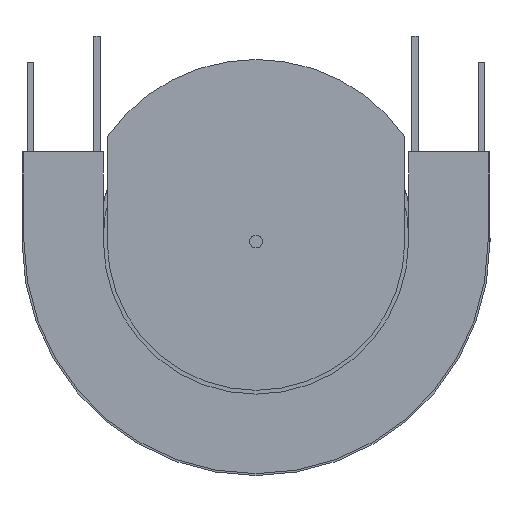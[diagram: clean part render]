
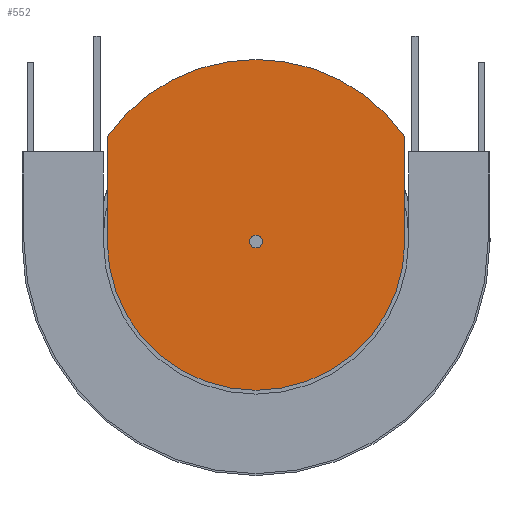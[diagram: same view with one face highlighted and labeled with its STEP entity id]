
A CAD part, front view. The second image highlights one B-rep face of the part: STEP entity #552.
In plain terms, the highlighted planar face has unit normal (0, -1, 0).
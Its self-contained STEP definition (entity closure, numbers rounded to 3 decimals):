
#114 = ORIENTED_EDGE ( 'NONE', *, *, #3408, .F. ) ;
#153 = VECTOR ( 'NONE', #3609, 1000. ) ;
#315 = EDGE_CURVE ( 'NONE', #862, #2097, #5756, .T. ) ;
#331 = VERTEX_POINT ( 'NONE', #2602 ) ;
#431 = CARTESIAN_POINT ( 'NONE',  ( 150., -38.75, -70. ) ) ;
#552 = ADVANCED_FACE ( 'NONE', ( #2470, #2300 ), #3314, .F. ) ;
#553 = CIRCLE ( 'NONE', #6273, 142. ) ;
#788 = CARTESIAN_POINT ( 'NONE',  ( 34., -38.75, 11.902 ) ) ;
#862 = VERTEX_POINT ( 'NONE', #1509 ) ;
#1160 = CIRCLE ( 'NONE', #5190, 5. ) ;
#1215 = AXIS2_PLACEMENT_3D ( 'NONE', #431, #5542, #6569 ) ;
#1228 = AXIS2_PLACEMENT_3D ( 'NONE', #3426, #2314, #4422 ) ;
#1303 = CIRCLE ( 'NONE', #1215, 116. ) ;
#1391 = ORIENTED_EDGE ( 'NONE', *, *, #1703, .F. ) ;
#1509 = CARTESIAN_POINT ( 'NONE',  ( 34., -38.75, -70. ) ) ;
#1649 = ORIENTED_EDGE ( 'NONE', *, *, #4972, .T. ) ;
#1703 = EDGE_CURVE ( 'NONE', #2324, #4594, #5188, .T. ) ;
#1872 = DIRECTION ( 'NONE',  ( 0., 0., 1. ) ) ;
#1953 = VERTEX_POINT ( 'NONE', #3514 ) ;
#2097 = VERTEX_POINT ( 'NONE', #788 ) ;
#2125 = DIRECTION ( 'NONE',  ( 0., 0., 1. ) ) ;
#2247 = CARTESIAN_POINT ( 'NONE',  ( 34., -38.75, -70. ) ) ;
#2276 = EDGE_LOOP ( 'NONE', ( #6496, #114 ) ) ;
#2300 = FACE_OUTER_BOUND ( 'NONE', #3236, .T. ) ;
#2314 = DIRECTION ( 'NONE',  ( 0., 1., 0. ) ) ;
#2324 = VERTEX_POINT ( 'NONE', #2326 ) ;
#2326 = CARTESIAN_POINT ( 'NONE',  ( 266., -38.75, 11.902 ) ) ;
#2359 = CARTESIAN_POINT ( 'NONE',  ( 150., -38.75, -70. ) ) ;
#2470 = FACE_BOUND ( 'NONE', #2276, .T. ) ;
#2537 = CIRCLE ( 'NONE', #1228, 142. ) ;
#2602 = CARTESIAN_POINT ( 'NONE',  ( 150., -38.75, -75. ) ) ;
#2609 = DIRECTION ( 'NONE',  ( 0., 1., 0. ) ) ;
#2747 = ORIENTED_EDGE ( 'NONE', *, *, #6604, .F. ) ;
#2770 = DIRECTION ( 'NONE',  ( 0., 0., -1. ) ) ;
#2913 = DIRECTION ( 'NONE',  ( 0., -1., 0. ) ) ;
#2914 = EDGE_CURVE ( 'NONE', #6344, #4594, #4574, .T. ) ;
#3012 = CARTESIAN_POINT ( 'NONE',  ( 150., -38.75, -70. ) ) ;
#3131 = CARTESIAN_POINT ( 'NONE',  ( 266., -38.75, -70. ) ) ;
#3168 = AXIS2_PLACEMENT_3D ( 'NONE', #3584, #5625, #4616 ) ;
#3236 = EDGE_LOOP ( 'NONE', ( #1649, #4336, #1391, #2747, #5780, #6246 ) ) ;
#3263 = DIRECTION ( 'NONE',  ( 0., 1., 0. ) ) ;
#3314 = PLANE ( 'NONE',  #3603 ) ;
#3408 = EDGE_CURVE ( 'NONE', #331, #1953, #1160, .T. ) ;
#3426 = CARTESIAN_POINT ( 'NONE',  ( 150., -38.75, -70. ) ) ;
#3463 = EDGE_CURVE ( 'NONE', #1953, #331, #5382, .T. ) ;
#3514 = CARTESIAN_POINT ( 'NONE',  ( 150., -38.75, -65. ) ) ;
#3539 = CARTESIAN_POINT ( 'NONE',  ( 34., -38.75, -70. ) ) ;
#3584 = CARTESIAN_POINT ( 'NONE',  ( 150., -38.75, -70. ) ) ;
#3603 = AXIS2_PLACEMENT_3D ( 'NONE', #2247, #3263, #2770 ) ;
#3609 = DIRECTION ( 'NONE',  ( 0., 0., 1. ) ) ;
#4312 = DIRECTION ( 'NONE',  ( 0., 0., -1. ) ) ;
#4336 = ORIENTED_EDGE ( 'NONE', *, *, #2914, .T. ) ;
#4422 = DIRECTION ( 'NONE',  ( 0., 0., 1. ) ) ;
#4423 = VERTEX_POINT ( 'NONE', #6131 ) ;
#4574 = CIRCLE ( 'NONE', #6425, 116. ) ;
#4594 = VERTEX_POINT ( 'NONE', #3131 ) ;
#4616 = DIRECTION ( 'NONE',  ( 0., 0., 1. ) ) ;
#4759 = CARTESIAN_POINT ( 'NONE',  ( 266., -38.75, -70. ) ) ;
#4972 = EDGE_CURVE ( 'NONE', #862, #6344, #1303, .T. ) ;
#5057 = DIRECTION ( 'NONE',  ( 0., 0., -1. ) ) ;
#5166 = CARTESIAN_POINT ( 'NONE',  ( 150., -38.75, -186. ) ) ;
#5188 = LINE ( 'NONE', #4759, #6623 ) ;
#5190 = AXIS2_PLACEMENT_3D ( 'NONE', #2359, #2913, #1872 ) ;
#5382 = CIRCLE ( 'NONE', #3168, 5. ) ;
#5542 = DIRECTION ( 'NONE',  ( 0., -1., 0. ) ) ;
#5625 = DIRECTION ( 'NONE',  ( 0., -1., 0. ) ) ;
#5695 = CARTESIAN_POINT ( 'NONE',  ( 150., -38.75, -70. ) ) ;
#5756 = LINE ( 'NONE', #3539, #153 ) ;
#5780 = ORIENTED_EDGE ( 'NONE', *, *, #6313, .F. ) ;
#6066 = DIRECTION ( 'NONE',  ( 0., -1., 0. ) ) ;
#6131 = CARTESIAN_POINT ( 'NONE',  ( 150., -38.75, 72. ) ) ;
#6246 = ORIENTED_EDGE ( 'NONE', *, *, #315, .F. ) ;
#6273 = AXIS2_PLACEMENT_3D ( 'NONE', #5695, #2609, #2125 ) ;
#6313 = EDGE_CURVE ( 'NONE', #2097, #4423, #553, .T. ) ;
#6344 = VERTEX_POINT ( 'NONE', #5166 ) ;
#6425 = AXIS2_PLACEMENT_3D ( 'NONE', #3012, #6066, #5057 ) ;
#6496 = ORIENTED_EDGE ( 'NONE', *, *, #3463, .F. ) ;
#6569 = DIRECTION ( 'NONE',  ( 0., 0., -1. ) ) ;
#6604 = EDGE_CURVE ( 'NONE', #4423, #2324, #2537, .T. ) ;
#6623 = VECTOR ( 'NONE', #4312, 1000. ) ;
